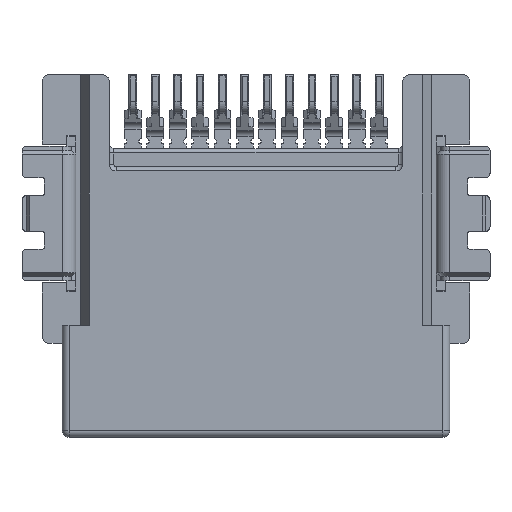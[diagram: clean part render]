
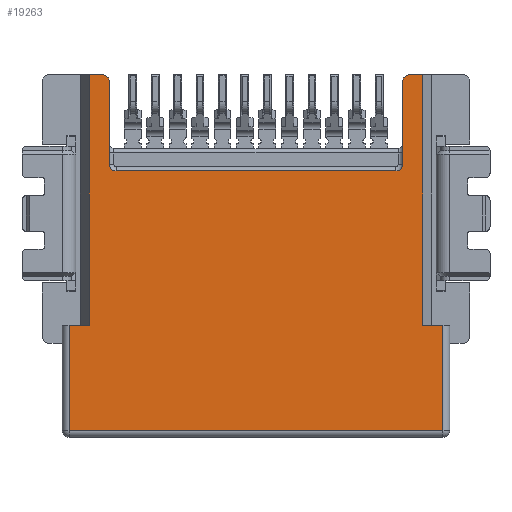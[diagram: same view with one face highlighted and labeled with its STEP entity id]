
A CAD part, front view. The second image highlights one B-rep face of the part: STEP entity #19263.
In plain terms, the highlighted planar face has unit normal (0, -1, 0).
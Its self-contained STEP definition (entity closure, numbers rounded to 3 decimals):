
#63 = VECTOR ( 'NONE', #2160, 1000. ) ;
#83 = CARTESIAN_POINT ( 'NONE',  ( -11.851, -4.853, 8.862 ) ) ;
#514 = EDGE_CURVE ( 'NONE', #6112, #22257, #21708, .T. ) ;
#689 = EDGE_CURVE ( 'NONE', #10864, #11476, #18650, .T. ) ;
#726 = EDGE_LOOP ( 'NONE', ( #1311, #13567, #12907, #1210, #2418, #15337, #18817, #8894, #16321, #11537, #15768, #18023, #10239, #18140, #19209, #19102 ) ) ;
#734 = CARTESIAN_POINT ( 'NONE',  ( -10.651, -4.853, -7.038 ) ) ;
#853 = CARTESIAN_POINT ( 'NONE',  ( -8.851, -4.853, 4.562 ) ) ;
#932 = DIRECTION ( 'NONE',  ( 0., 0., -1. ) ) ;
#1210 = ORIENTED_EDGE ( 'NONE', *, *, #9194, .F. ) ;
#1289 = CARTESIAN_POINT ( 'NONE',  ( 5.149, -4.853, 9.462 ) ) ;
#1311 = ORIENTED_EDGE ( 'NONE', *, *, #689, .T. ) ;
#1394 = CARTESIAN_POINT ( 'NONE',  ( -9.151, -4.853, 8.562 ) ) ;
#1713 = LINE ( 'NONE', #6902, #2288 ) ;
#2022 = CARTESIAN_POINT ( 'NONE',  ( 3.949, -4.853, 4.562 ) ) ;
#2160 = DIRECTION ( 'NONE',  ( 0., 0., 1. ) ) ;
#2288 = VECTOR ( 'NONE', #21238, 1000. ) ;
#2370 = VERTEX_POINT ( 'NONE', #2493 ) ;
#2418 = ORIENTED_EDGE ( 'NONE', *, *, #22790, .F. ) ;
#2493 = CARTESIAN_POINT ( 'NONE',  ( 5.149, -4.853, -2.338 ) ) ;
#2661 = CIRCLE ( 'NONE', #15620, 0.3 ) ;
#2841 = VERTEX_POINT ( 'NONE', #7164 ) ;
#3220 = DIRECTION ( 'NONE',  ( 0., 0., -1. ) ) ;
#3299 = DIRECTION ( 'NONE',  ( 1., 0., 0. ) ) ;
#3405 = CARTESIAN_POINT ( 'NONE',  ( 4.249, -4.853, 4.862 ) ) ;
#3619 = VERTEX_POINT ( 'NONE', #14363 ) ;
#3756 = AXIS2_PLACEMENT_3D ( 'NONE', #7787, #20408, #9623 ) ;
#3762 = CIRCLE ( 'NONE', #3756, 0.3 ) ;
#4214 = LINE ( 'NONE', #19092, #17482 ) ;
#4467 = DIRECTION ( 'NONE',  ( 0., 1., 0. ) ) ;
#4583 = EDGE_CURVE ( 'NONE', #8788, #8347, #2661, .T. ) ;
#5305 = VERTEX_POINT ( 'NONE', #17947 ) ;
#5695 = EDGE_CURVE ( 'NONE', #6112, #12632, #9679, .T. ) ;
#5898 = DIRECTION ( 'NONE',  ( 0., 0., 1. ) ) ;
#5962 = CARTESIAN_POINT ( 'NONE',  ( 5.749, -4.853, -2.338 ) ) ;
#6112 = VERTEX_POINT ( 'NONE', #3405 ) ;
#6309 = DIRECTION ( 'NONE',  ( 1., 0., 0. ) ) ;
#6501 = DIRECTION ( 'NONE',  ( 0., 0., -1. ) ) ;
#6754 = DIRECTION ( 'NONE',  ( 1., 0., 0. ) ) ;
#6902 = CARTESIAN_POINT ( 'NONE',  ( -9.751, -4.853, 9.462 ) ) ;
#6917 = LINE ( 'NONE', #22141, #11692 ) ;
#7164 = CARTESIAN_POINT ( 'NONE',  ( 5.149, -4.853, 8.862 ) ) ;
#7381 = VERTEX_POINT ( 'NONE', #7444 ) ;
#7444 = CARTESIAN_POINT ( 'NONE',  ( -9.751, -4.853, 8.862 ) ) ;
#7483 = VECTOR ( 'NONE', #6309, 1000. ) ;
#7545 = FACE_OUTER_BOUND ( 'NONE', #726, .T. ) ;
#7787 = CARTESIAN_POINT ( 'NONE',  ( 4.549, -4.853, 8.562 ) ) ;
#8049 = LINE ( 'NONE', #22479, #7483 ) ;
#8118 = CARTESIAN_POINT ( 'NONE',  ( -8.551, -4.853, 4.562 ) ) ;
#8347 = VERTEX_POINT ( 'NONE', #17514 ) ;
#8652 = CIRCLE ( 'NONE', #10589, 0.3 ) ;
#8788 = VERTEX_POINT ( 'NONE', #14225 ) ;
#8866 = PLANE ( 'NONE',  #21521 ) ;
#8894 = ORIENTED_EDGE ( 'NONE', *, *, #514, .T. ) ;
#8982 = VECTOR ( 'NONE', #18597, 1000. ) ;
#9156 = LINE ( 'NONE', #853, #17630 ) ;
#9194 = EDGE_CURVE ( 'NONE', #2841, #2370, #11976, .T. ) ;
#9449 = CARTESIAN_POINT ( 'NONE',  ( 4.249, -4.853, 8.562 ) ) ;
#9623 = DIRECTION ( 'NONE',  ( 0., 0., -1. ) ) ;
#9679 = LINE ( 'NONE', #12963, #63 ) ;
#10109 = DIRECTION ( 'NONE',  ( 0., 0., -1. ) ) ;
#10239 = ORIENTED_EDGE ( 'NONE', *, *, #14047, .F. ) ;
#10458 = CARTESIAN_POINT ( 'NONE',  ( -10.351, -4.853, 4.562 ) ) ;
#10589 = AXIS2_PLACEMENT_3D ( 'NONE', #15238, #4467, #17086 ) ;
#10666 = DIRECTION ( 'NONE',  ( 0., -1., 0. ) ) ;
#10864 = VERTEX_POINT ( 'NONE', #734 ) ;
#10993 = CARTESIAN_POINT ( 'NONE',  ( -11.851, -4.853, 8.862 ) ) ;
#11105 = CARTESIAN_POINT ( 'NONE',  ( -9.751, -4.853, -2.338 ) ) ;
#11290 = EDGE_CURVE ( 'NONE', #16383, #7381, #1713, .T. ) ;
#11476 = VERTEX_POINT ( 'NONE', #18259 ) ;
#11537 = ORIENTED_EDGE ( 'NONE', *, *, #14898, .T. ) ;
#11692 = VECTOR ( 'NONE', #5898, 1000. ) ;
#11742 = CARTESIAN_POINT ( 'NONE',  ( 4.549, -4.853, 8.862 ) ) ;
#11976 = LINE ( 'NONE', #1289, #21010 ) ;
#12632 = VERTEX_POINT ( 'NONE', #9449 ) ;
#12711 = DIRECTION ( 'NONE',  ( 1., 0., 0. ) ) ;
#12804 = DIRECTION ( 'NONE',  ( 1., 0., 0. ) ) ;
#12907 = ORIENTED_EDGE ( 'NONE', *, *, #18999, .F. ) ;
#12963 = CARTESIAN_POINT ( 'NONE',  ( 4.249, -4.853, 4.562 ) ) ;
#13203 = LINE ( 'NONE', #5962, #8982 ) ;
#13421 = EDGE_CURVE ( 'NONE', #5305, #10864, #4214, .T. ) ;
#13442 = CARTESIAN_POINT ( 'NONE',  ( 6.349, -4.853, -7.038 ) ) ;
#13567 = ORIENTED_EDGE ( 'NONE', *, *, #16459, .T. ) ;
#13571 = LINE ( 'NONE', #10993, #22595 ) ;
#13833 = VECTOR ( 'NONE', #6754, 1000. ) ;
#13897 = DIRECTION ( 'NONE',  ( 0., 0., -1. ) ) ;
#14008 = DIRECTION ( 'NONE',  ( 0., -1., 0. ) ) ;
#14047 = EDGE_CURVE ( 'NONE', #7381, #8347, #18300, .T. ) ;
#14225 = CARTESIAN_POINT ( 'NONE',  ( -8.851, -4.853, 8.562 ) ) ;
#14363 = CARTESIAN_POINT ( 'NONE',  ( -8.851, -4.853, 4.862 ) ) ;
#14898 = EDGE_CURVE ( 'NONE', #21412, #3619, #8652, .T. ) ;
#15238 = CARTESIAN_POINT ( 'NONE',  ( -8.551, -4.853, 4.862 ) ) ;
#15337 = ORIENTED_EDGE ( 'NONE', *, *, #21754, .T. ) ;
#15620 = AXIS2_PLACEMENT_3D ( 'NONE', #1394, #14008, #3220 ) ;
#15768 = ORIENTED_EDGE ( 'NONE', *, *, #16855, .F. ) ;
#15976 = EDGE_CURVE ( 'NONE', #5305, #16383, #8049, .T. ) ;
#15992 = VERTEX_POINT ( 'NONE', #11742 ) ;
#16321 = ORIENTED_EDGE ( 'NONE', *, *, #20411, .F. ) ;
#16383 = VERTEX_POINT ( 'NONE', #11105 ) ;
#16434 = CARTESIAN_POINT ( 'NONE',  ( 6.049, -4.853, -2.338 ) ) ;
#16459 = EDGE_CURVE ( 'NONE', #11476, #22263, #6917, .T. ) ;
#16671 = CARTESIAN_POINT ( 'NONE',  ( 3.949, -4.853, 4.862 ) ) ;
#16855 = EDGE_CURVE ( 'NONE', #8788, #3619, #9156, .T. ) ;
#17086 = DIRECTION ( 'NONE',  ( 0., 0., -1. ) ) ;
#17482 = VECTOR ( 'NONE', #10109, 1000. ) ;
#17514 = CARTESIAN_POINT ( 'NONE',  ( -9.151, -4.853, 8.862 ) ) ;
#17630 = VECTOR ( 'NONE', #932, 1000. ) ;
#17746 = VECTOR ( 'NONE', #12711, 1000. ) ;
#17947 = CARTESIAN_POINT ( 'NONE',  ( -10.651, -4.853, -2.338 ) ) ;
#18009 = DIRECTION ( 'NONE',  ( 0., 1., 0. ) ) ;
#18023 = ORIENTED_EDGE ( 'NONE', *, *, #4583, .T. ) ;
#18140 = ORIENTED_EDGE ( 'NONE', *, *, #11290, .F. ) ;
#18259 = CARTESIAN_POINT ( 'NONE',  ( 6.049, -4.853, -7.038 ) ) ;
#18300 = LINE ( 'NONE', #83, #17746 ) ;
#18597 = DIRECTION ( 'NONE',  ( 1., 0., 0. ) ) ;
#18650 = LINE ( 'NONE', #13442, #13833 ) ;
#18768 = AXIS2_PLACEMENT_3D ( 'NONE', #16671, #18009, #6501 ) ;
#18817 = ORIENTED_EDGE ( 'NONE', *, *, #5695, .F. ) ;
#18999 = EDGE_CURVE ( 'NONE', #2370, #22263, #13203, .T. ) ;
#19092 = CARTESIAN_POINT ( 'NONE',  ( -10.651, -4.853, -7.338 ) ) ;
#19102 = ORIENTED_EDGE ( 'NONE', *, *, #13421, .T. ) ;
#19209 = ORIENTED_EDGE ( 'NONE', *, *, #15976, .F. ) ;
#19263 = ADVANCED_FACE ( 'NONE', ( #7545 ), #8866, .T. ) ;
#19355 = VECTOR ( 'NONE', #3299, 1000. ) ;
#19917 = LINE ( 'NONE', #10458, #19355 ) ;
#20408 = DIRECTION ( 'NONE',  ( 0., -1., 0. ) ) ;
#20411 = EDGE_CURVE ( 'NONE', #21412, #22257, #19917, .T. ) ;
#21010 = VECTOR ( 'NONE', #13897, 1000. ) ;
#21238 = DIRECTION ( 'NONE',  ( 0., 0., 1. ) ) ;
#21412 = VERTEX_POINT ( 'NONE', #8118 ) ;
#21469 = CARTESIAN_POINT ( 'NONE',  ( -10.351, -4.853, -7.338 ) ) ;
#21521 = AXIS2_PLACEMENT_3D ( 'NONE', #21469, #10666, #23276 ) ;
#21708 = CIRCLE ( 'NONE', #18768, 0.3 ) ;
#21754 = EDGE_CURVE ( 'NONE', #15992, #12632, #3762, .T. ) ;
#22141 = CARTESIAN_POINT ( 'NONE',  ( 6.049, -4.853, -2.338 ) ) ;
#22257 = VERTEX_POINT ( 'NONE', #2022 ) ;
#22263 = VERTEX_POINT ( 'NONE', #16434 ) ;
#22479 = CARTESIAN_POINT ( 'NONE',  ( -10.351, -4.853, -2.338 ) ) ;
#22595 = VECTOR ( 'NONE', #12804, 1000. ) ;
#22790 = EDGE_CURVE ( 'NONE', #15992, #2841, #13571, .T. ) ;
#23276 = DIRECTION ( 'NONE',  ( 0., 0., -1. ) ) ;
